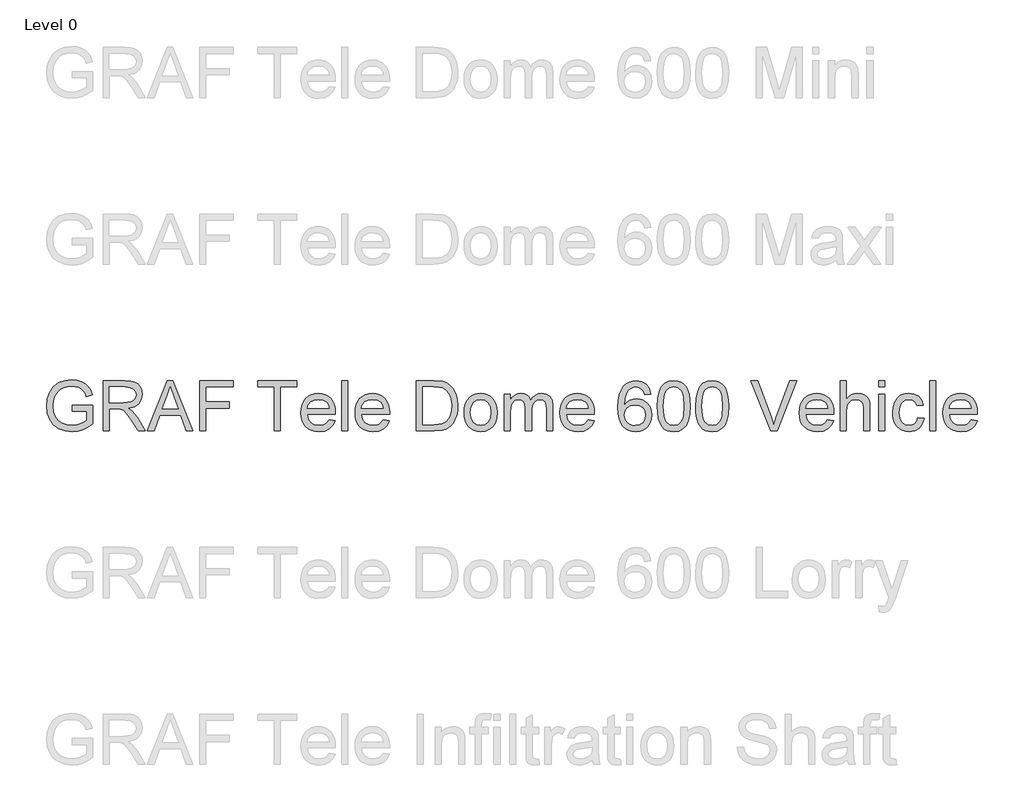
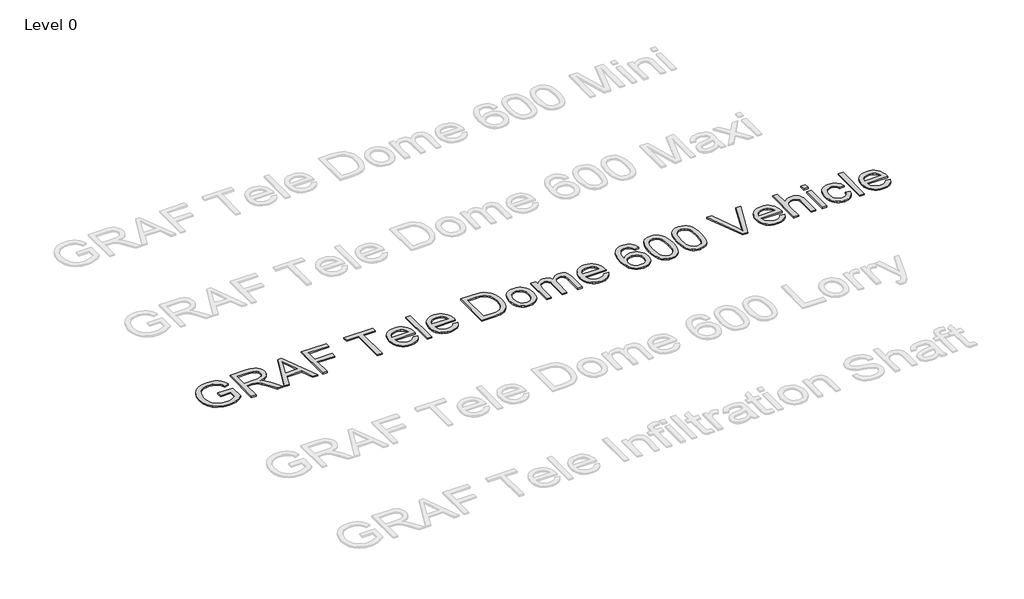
# One storey, part 20 of 25: 1 proxy.
"""IFC4 building model written with IfcOpenShell, lengths in millimetres."""

from ifc_helpers import new_model, si_unit, origin, origin_with_axes, place, context, project, spatial, polyline, outline, extrude, element, save

model = new_model("IFC4")

# Units and contexts
model_context = context("Model", 3, world=origin())
ifc_project = project(units=[si_unit("LENGTHUNIT", "METRE", prefix="MILLI")], contexts=[model_context])

# Site, building, storey
site = spatial("IfcSite", under=ifc_project)
building = spatial("IfcBuilding", under=site)
storey = spatial("IfcBuildingStorey", under=building, Name="Level 0", Elevation=0.0)

# Proxy
placement = place(None, origin())
element("IfcBuildingElementProxy", 1, Name="300mm Arial", ObjectType="300mm Arial", at=placement, inside=storey, context=model_context, shape_type="SweptSolid", body=[
    extrude(outline(polyline([(-15240.9940387, 5916.7454403), (-15240.9940387, 5954.4165566), (-15118.5629107, 5954.4165566), (-15118.5629107, 5841.7710897), (-15148.3153671, 5821.0777274), (-15179.0059225, 5806.2336889), (-15210.5610007, 5797.2941564), (-15242.9070251, 5794.3143123), (-15285.1674693, 5799.050793), (-15323.3628175, 5813.260235), (-15355.0926395, 5836.4459978), (-15377.9565055, 5868.1114405), (-15391.7796715, 5906.0952565), (-15396.3873935, 5948.2361391), (-15391.7980656, 5990.6805243), (-15378.0300819, 6030.1634594), (-15355.6536596, 6063.282036), (-15325.2390156, 6086.6333457), (-15288.1932987, 6100.4841028), (-15245.9236575, 6105.1010218), (-15214.8928112, 6102.4246803), (-15186.9889618, 6094.3956557), (-15163.4904994, 6081.5933623), (-15145.6758138, 6064.5972141), (-15132.4964413, 6042.5886738), (-15122.9039183, 6014.7492038), (-15157.6319786, 6004.9635427), (-15165.3850917, 6024.8199734), (-15174.8120678, 6039.8019677), (-15187.2832674, 6051.0959449), (-15204.169051, 6059.8883246), (-15224.3013932, 6065.5445103), (-15246.5122687, 6067.4299055), (-15272.5123287, 6065.3973575), (-15294.7415982, 6059.2997134), (-15313.1173039, 6049.9003284), (-15327.5566722, 6037.9625577), (-15346.9440533, 6008.9366683), (-15355.7732212, 5980.49939), (-15358.7162772, 5949.7812434), (-15355.175413, 5913.7563991), (-15344.5528204, 5884.1143073), (-15327.1703961, 5861.0665003), (-15303.3500369, 5844.8245102), (-15275.4737787, 5835.195199), (-15245.9236575, 5831.9854286), (-15219.831627, 5834.4042527), (-15194.3833899, 5841.6607251), (-15172.2828791, 5851.6579183), (-15156.234027, 5862.298905), (-15156.234027, 5916.7454403), (-15240.9940387, 5916.7454403)])), origin_with_axes(), (0.0, 0.0, 1.0), 10.0),
    extrude(outline(polyline([(-15057.3473467, 5799.0232018), (-15057.3473467, 6100.3921323), (-14927.4850024, 6100.3921323), (-14892.5821982, 6098.3595842), (-14867.1891434, 6092.2619402), (-14848.6294968, 6081.0047511), (-14834.2269167, 6063.4935682), (-14824.9838815, 6041.7793334), (-14821.9028698, 6017.912989), (-14827.0072325, 5988.2249119), (-14842.3203206, 5963.6136065), (-14853.9200997, 5953.5842236), (-14868.3019865, 5945.5689946), (-14905.4120827, 5935.5809984), (-14884.0013506, 5919.467767), (-14853.467145, 5880.6930048), (-14803.2144645, 5799.0232018), (-14846.9924219, 5799.0232018), (-14886.2086426, 5861.4895646), (-14914.5355562, 5902.8395009), (-14934.4379722, 5922.3740348), (-14952.3538253, 5929.5477337), (-14974.2060158, 5930.8721089), (-15019.6762304, 5930.8721089), (-15019.6762304, 5799.0232018), (-15057.3473467, 5799.0232018)]), holes=[polyline([(-15019.6762304, 5968.5432252), (-14935.3576771, 5968.5432252), (-14911.1418448, 5969.8767974), (-14892.3522719, 5973.8775141), (-14878.2072092, 5980.8120897), (-14867.9249074, 5990.9472387), (-14861.6617165, 6003.2069062), (-14859.5739861, 6016.5150374), (-14863.5563087, 6034.890743), (-14875.5032765, 6049.6979933), (-14896.058683, 6059.4652603), (-14925.8663217, 6062.721016), (-15019.6762304, 6062.721016), (-15019.6762304, 5968.5432252)])]), origin_with_axes(), (0.0, 0.0, 1.0), 10.0),
    extrude(outline(polyline([(-14791.0743586, 5799.0232018), (-14670.7769462, 6100.3921323), (-14638.6976362, 6100.3921323), (-14518.4002238, 5799.0232018), (-14558.2050557, 5799.0232018), (-14592.7123868, 5893.2009926), (-14716.835772, 5893.2009926), (-14751.2695268, 5799.0232018), (-14791.0743586, 5799.0232018)]), holes=[polyline([(-14703.003409, 5930.8721089), (-14606.4711735, 5930.8721089), (-14633.6208647, 6004.9635427), (-14654.7372912, 6062.721016), (-14673.499273, 6011.4382658), (-14703.003409, 5930.8721089)])]), origin_with_axes(), (0.0, 0.0, 1.0), 10.0),
    extrude(outline(polyline([(-14478.1539335, 5799.0232018), (-14478.1539335, 6100.3921323), (-14275.6716834, 6100.3921323), (-14275.6716834, 6062.721016), (-14440.4828172, 6062.721016), (-14440.4828172, 5973.2521147), (-14299.2161311, 5973.2521147), (-14299.2161311, 5935.5809984), (-14440.4828172, 5935.5809984), (-14440.4828172, 5799.0232018), (-14478.1539335, 5799.0232018)])), origin_with_axes(), (0.0, 0.0, 1.0), 10.0),
    extrude(outline(polyline([(-14030.8094274, 5799.0232018), (-14030.8094274, 6062.721016), (-14129.6961077, 6062.721016), (-14129.6961077, 6100.3921323), (-13894.2516308, 6100.3921323), (-13894.2516308, 6062.721016), (-13993.1383111, 6062.721016), (-13993.1383111, 5799.0232018), (-14030.8094274, 5799.0232018)])), origin_with_axes(), (0.0, 0.0, 1.0), 10.0),
    extrude(outline(polyline([(-13701.6286181, 5864.9476554), (-13664.6932658, 5860.2387658), (-13678.001397, 5832.4084929), (-13699.2373851, 5811.6047661), (-13727.9229837, 5798.6369257), (-13763.5799461, 5794.3143123), (-13786.9542484, 5796.1790141), (-13807.7809678, 5801.7731197), (-13826.0601045, 5811.0966291), (-13841.7916583, 5824.1495421), (-13854.4422004, 5840.5685754), (-13863.4783019, 5859.9904455), (-13868.8999628, 5882.4151523), (-13870.7071831, 5907.842696), (-13868.8815687, 5934.1324631), (-13863.4047255, 5957.3044302), (-13854.2766535, 5977.3585975), (-13841.4973527, 5994.2949649), (-13825.8071856, 6007.7502488), (-13807.9465147, 6017.361166), (-13787.9153401, 6023.1277162), (-13765.7136617, 6025.0498997), (-13744.2270539, 6023.1323148), (-13724.7959868, 6017.3795601), (-13707.4204603, 6007.7916356), (-13692.1004744, 5994.3685413), (-13679.5947859, 5977.4689621), (-13670.6621512, 5957.451583), (-13665.3025704, 5934.3164041), (-13663.5160434, 5908.0634252), (-13663.7367726, 5897.9098821), (-13833.0360668, 5897.9098821), (-13826.5153584, 5869.7117272), (-13811.3678173, 5848.9815768), (-13789.5064297, 5836.2344656), (-13762.8441821, 5831.9854286), (-13742.7946134, 5833.9535973), (-13725.9088298, 5839.8581033), (-13712.1868314, 5850.0668287), (-13701.6286181, 5864.9476554)]), holes=[polyline([(-13833.0360668, 5935.5809984), (-13701.1871597, 5935.5809984), (-13706.2823254, 5955.4834144), (-13716.2703215, 5969.7204476), (-13738.2328766, 5982.9641994), (-13765.8608145, 5987.3787834), (-13791.2538692, 5983.8563132), (-13812.2507341, 5973.2889029), (-13826.8464522, 5956.8169866), (-13833.0360668, 5935.5809984)])]), origin_with_axes(), (0.0, 0.0, 1.0), 10.0),
    extrude(outline(polyline([(-13625.8449271, 5799.0232018), (-13625.8449271, 6100.3921323), (-13588.1738108, 6100.3921323), (-13588.1738108, 5799.0232018), (-13625.8449271, 5799.0232018)])), origin_with_axes(), (0.0, 0.0, 1.0), 10.0),
    extrude(outline(polyline([(-13376.71524, 5864.9476554), (-13339.7798877, 5860.2387658), (-13353.0880188, 5832.4084929), (-13374.324007, 5811.6047661), (-13403.0096056, 5798.6369257), (-13438.666568, 5794.3143123), (-13462.0408702, 5796.1790141), (-13482.8675897, 5801.7731197), (-13501.1467263, 5811.0966291), (-13516.8782801, 5824.1495421), (-13529.5288222, 5840.5685754), (-13538.5649238, 5859.9904455), (-13543.9865847, 5882.4151523), (-13545.793805, 5907.842696), (-13543.9681906, 5934.1324631), (-13538.4913474, 5957.3044302), (-13529.3632754, 5977.3585975), (-13516.5839745, 5994.2949649), (-13500.8938074, 6007.7502488), (-13483.0331366, 6017.361166), (-13463.0019619, 6023.1277162), (-13440.8002835, 6025.0498997), (-13419.3136758, 6023.1323148), (-13399.8826086, 6017.3795601), (-13382.5070821, 6007.7916356), (-13367.1870963, 5994.3685413), (-13354.6814077, 5977.4689621), (-13345.748773, 5957.451583), (-13340.3891922, 5934.3164041), (-13338.6026653, 5908.0634252), (-13338.8233945, 5897.9098821), (-13508.1226887, 5897.9098821), (-13501.6019803, 5869.7117272), (-13486.4544391, 5848.9815768), (-13464.5930516, 5836.2344656), (-13437.930804, 5831.9854286), (-13417.8812352, 5833.9535973), (-13400.9954517, 5839.8581033), (-13387.2734532, 5850.0668287), (-13376.71524, 5864.9476554)]), holes=[polyline([(-13508.1226887, 5935.5809984), (-13376.2737816, 5935.5809984), (-13381.3689472, 5955.4834144), (-13391.3569434, 5969.7204476), (-13413.3194985, 5982.9641994), (-13440.9474363, 5987.3787834), (-13466.3404911, 5983.8563132), (-13487.3373559, 5973.2889029), (-13501.9330741, 5956.8169866), (-13508.1226887, 5935.5809984)])]), origin_with_axes(), (0.0, 0.0, 1.0), 10.0),
    extrude(outline(polyline([(-13178.500421, 5799.0232018), (-13178.500421, 6100.3921323), (-13074.5369691, 6100.3921323), (-13020.7526214, 6096.0511247), (-12996.7299272, 6087.6818093), (-12976.4596292, 6074.4932398), (-12955.6191142, 6051.5374033), (-12940.7750757, 6022.9897605), (-12931.8907255, 5989.4021343), (-12928.9292754, 5951.3263478), (-12930.9342323, 5918.9803234), (-12936.9491029, 5890.515454), (-12946.1093646, 5866.2812276), (-12957.5504947, 5846.627132), (-12970.7206701, 5831.1117089), (-12985.0680679, 5819.2934998), (-13001.5399842, 5810.5287112), (-13021.0837152, 5804.1735498), (-13069.533774, 5799.0232018), (-13178.500421, 5799.0232018)]), holes=[polyline([(-13140.8293047, 5836.6943181), (-13074.1690871, 5836.6943181), (-13046.5963316, 5838.0554815), (-13025.6822402, 5842.1389717), (-13009.9001026, 5848.7056653), (-12997.7232085, 5857.5164391), (-12984.6358066, 5873.8228085), (-12974.8041602, 5894.930038), (-12968.6513339, 5920.930098), (-12966.6003918, 5951.914959), (-12970.6195026, 5992.9705897), (-12982.6768349, 6023.2840661), (-13000.4915206, 6044.106187), (-13021.782691, 6056.6877512), (-13043.4509405, 6061.2126998), (-13075.1991567, 6062.721016), (-13140.8293047, 6062.721016), (-13140.8293047, 5836.6943181)])]), origin_with_axes(), (0.0, 0.0, 1.0), 10.0),
    extrude(outline(polyline([(-12891.2581591, 5909.682106), (-12889.2210126, 5938.3447119), (-12883.1095729, 5963.0433894), (-12872.9238402, 5983.7781383), (-12858.6638144, 6000.5489588), (-12844.3072195, 6011.2681204), (-12828.4607026, 6018.9246644), (-12811.1242635, 6023.5185909), (-12792.2979024, 6025.0498997), (-12771.514869, 6023.1851978), (-12752.7229968, 6017.5910922), (-12735.9222859, 6008.2675829), (-12721.1127364, 5995.2146698), (-12709.0255136, 5978.8738115), (-12700.391783, 5959.6864662), (-12695.2115447, 5937.6526339), (-12693.4847985, 5912.7723147), (-12696.5382191, 5874.7149223), (-12705.6984808, 5845.7442152), (-12720.6988691, 5824.0483745), (-12741.2726697, 5807.8155815), (-12765.7092312, 5797.6896296), (-12792.2979024, 5794.3143123), (-12813.3844386, 5796.1721164), (-12832.3510547, 5801.7455286), (-12849.1977508, 5811.034549), (-12863.9245269, 5824.0391775), (-12875.882991, 5840.538685), (-12884.4247511, 5860.3123422), (-12889.5498071, 5883.3601492), (-12891.2581591, 5909.682106)]), holes=[polyline([(-12853.5870428, 5909.7556824), (-12849.2276412, 5875.6622185), (-12836.1494363, 5851.3728097), (-12816.4677495, 5836.8322739), (-12792.2979024, 5831.9854286), (-12768.23842, 5836.859865), (-12748.5935214, 5851.4831743), (-12735.5153165, 5876.0944798), (-12731.1559148, 5910.9329048), (-12735.5429076, 5944.0330873), (-12748.703886, 5967.9914022), (-12768.3763757, 5982.5319381), (-12792.2979024, 5987.3787834), (-12816.4677495, 5982.5503322), (-12836.1494363, 5968.0649786), (-12849.2276412, 5943.8307522), (-12853.5870428, 5909.7556824)])]), origin_with_axes(), (0.0, 0.0, 1.0), 10.0),
    extrude(outline(polyline([(-12651.1047927, 5799.0232018), (-12651.1047927, 6020.3410101), (-12613.4336764, 6020.3410101), (-12613.4336764, 5983.9206926), (-12602.1029109, 6000.6501263), (-12587.5347839, 6013.7559224), (-12570.2259361, 6022.2264053), (-12550.673008, 6025.0498997), (-12529.7221284, 6022.171223), (-12512.9283153, 6013.5351932), (-12500.3835393, 5999.7120272), (-12492.1797708, 5981.2719422), (-12478.4485753, 6000.4247986), (-12462.7859994, 6014.1054103), (-12445.1920429, 6022.3137773), (-12425.666706, 6025.0498997), (-12397.3489895, 6020.49736), (-12376.4073069, 6006.8397409), (-12363.4670577, 5983.7091605), (-12359.1536413, 5950.7377366), (-12359.1536413, 5799.0232018), (-12396.8247576, 5799.0232018), (-12396.8247576, 5934.5509288), (-12400.3196366, 5966.0048394), (-12405.2308612, 5974.6776575), (-12412.9747772, 5981.4926714), (-12422.9351822, 5985.9072554), (-12434.4958739, 5987.3787834), (-12454.9041276, 5983.6079929), (-12471.5415908, 5972.2956216), (-12482.6056419, 5952.6691171), (-12486.2936589, 5923.9559274), (-12486.2936589, 5799.0232018), (-12523.9647752, 5799.0232018), (-12523.9647752, 5938.7447836), (-12526.144476, 5960.0451511), (-12532.6835784, 5975.2386775), (-12544.1890878, 5984.3437569), (-12561.2680095, 5987.3787834), (-12575.7809542, 5985.3554324), (-12589.1534647, 5979.2853795), (-12600.1899246, 5969.3157774), (-12607.6947173, 5955.593779), (-12611.9989366, 5936.5558857), (-12613.4336764, 5910.6385992), (-12613.4336764, 5799.0232018), (-12651.1047927, 5799.0232018)])), origin_with_axes(), (0.0, 0.0, 1.0), 10.0),
    extrude(outline(polyline([(-12147.6950705, 5864.9476554), (-12110.7597182, 5860.2387658), (-12124.0678494, 5832.4084929), (-12145.3038375, 5811.6047661), (-12173.9894361, 5798.6369257), (-12209.6463985, 5794.3143123), (-12233.0207007, 5796.1790141), (-12253.8474202, 5801.7731197), (-12272.1265568, 5811.0966291), (-12287.8581107, 5824.1495421), (-12300.5086528, 5840.5685754), (-12309.5447543, 5859.9904455), (-12314.9664152, 5882.4151523), (-12316.7736355, 5907.842696), (-12314.9480211, 5934.1324631), (-12309.4711779, 5957.3044302), (-12300.3431059, 5977.3585975), (-12287.5638051, 5994.2949649), (-12271.873638, 6007.7502488), (-12254.0129671, 6017.361166), (-12233.9817925, 6023.1277162), (-12211.7801141, 6025.0498997), (-12190.2935063, 6023.1323148), (-12170.8624391, 6017.3795601), (-12153.4869127, 6007.7916356), (-12138.1669268, 5994.3685413), (-12125.6612382, 5977.4689621), (-12116.7286035, 5957.451583), (-12111.3690227, 5934.3164041), (-12109.5824958, 5908.0634252), (-12109.803225, 5897.9098821), (-12279.1025192, 5897.9098821), (-12272.5818108, 5869.7117272), (-12257.4342697, 5848.9815768), (-12235.5728821, 5836.2344656), (-12208.9106345, 5831.9854286), (-12188.8610658, 5833.9535973), (-12171.9752822, 5839.8581033), (-12158.2532838, 5850.0668287), (-12147.6950705, 5864.9476554)]), holes=[polyline([(-12279.1025192, 5935.5809984), (-12147.2536121, 5935.5809984), (-12152.3487777, 5955.4834144), (-12162.3367739, 5969.7204476), (-12184.299329, 5982.9641994), (-12211.9272668, 5987.3787834), (-12237.3203216, 5983.8563132), (-12258.3171864, 5973.2889029), (-12272.9129046, 5956.8169866), (-12279.1025192, 5935.5809984)])]), origin_with_axes(), (0.0, 0.0, 1.0), 10.0),
    extrude(outline(polyline([(-11770.542449, 6020.3410101), (-11808.2135653, 6015.6321206), (-11814.2836183, 6034.3021318), (-11822.4873868, 6047.049243), (-11839.5755054, 6058.8030727), (-11860.2320795, 6062.721016), (-11877.7432624, 6060.4401476), (-11894.2243758, 6053.5975425), (-11908.3786356, 6039.1857653), (-11919.9393273, 6019.3477287), (-11927.7476226, 5991.2875296), (-11930.6446933, 5952.2092646), (-11915.5339404, 5969.8400092), (-11897.4249492, 5982.2652236), (-11877.3293952, 5989.6320606), (-11856.2589539, 5992.0876729), (-11838.1591597, 5990.4092113), (-11821.4573172, 5985.3738265), (-11806.1534262, 5976.9815185), (-11792.2474868, 5965.2322872), (-11780.6913936, 5950.8251086), (-11772.4370413, 5934.4589583), (-11767.48443, 5916.1338365), (-11765.8335595, 5895.849743), (-11768.9421624, 5868.8747957), (-11778.2679709, 5843.868017), (-11793.038433, 5822.65962), (-11812.4809965, 5807.0798175), (-11835.7127445, 5797.5056886), (-11861.8507602, 5794.3143123), (-11884.3076568, 5796.4296338), (-11904.589451, 5802.7755982), (-11922.696143, 5813.3522055), (-11938.6277326, 5828.1594558), (-11951.6162663, 5847.8227485), (-11960.8937904, 5872.9674829), (-11966.4603048, 5903.593659), (-11968.3158096, 5939.7012768), (-11966.2556705, 5980.1820918), (-11960.075253, 6014.7308097), (-11949.7745571, 6043.3474304), (-11935.3535829, 6066.0319539), (-11919.7231966, 6081.0645319), (-11901.6004098, 6091.8020877), (-11880.9852225, 6098.2446211), (-11857.8776347, 6100.3921323), (-11824.8234374, 6095.0762374), (-11798.3543279, 6079.1285529), (-11779.8130753, 6053.7998776), (-11770.542449, 6020.3410101)]), holes=[polyline([(-11930.6446933, 5896.4383541), (-11928.4649925, 5879.7457086), (-11921.9258901, 5863.8072212), (-11911.772347, 5850.1036169), (-11898.7493244, 5840.1156207), (-11883.0315661, 5834.0179766), (-11864.7938162, 5831.9854286), (-11839.9341904, 5836.1976774), (-11820.3904594, 5848.834424), (-11807.7261217, 5868.7000517), (-11803.5046758, 5894.5989442), (-11807.6709394, 5919.45857), (-11820.1697302, 5938.4136898), (-11840.044555, 5950.4158399), (-11866.3389206, 5954.4165566), (-11891.1617582, 5950.4158399), (-11911.9194998, 5938.4136898), (-11925.9633949, 5919.9184225), (-11930.6446933, 5896.4383541)])]), origin_with_axes(), (0.0, 0.0, 1.0), 10.0),
    extrude(outline(polyline([(-11732.8713327, 5947.2796459), (-11730.1030207, 5995.5181725), (-11721.7980847, 6033.9894321), (-11708.0392981, 6063.282036), (-11688.9094343, 6083.9845953), (-11664.2705377, 6096.290248), (-11633.9846524, 6100.3921323), (-11610.7712985, 6097.9641111), (-11589.9859658, 6090.6800476), (-11572.6035415, 6078.8250503), (-11559.598913, 6062.6842278), (-11549.7764637, 6042.3955357), (-11541.9405772, 6018.0969299), (-11536.8086234, 5987.2408276), (-11535.0979721, 5947.2796459), (-11537.838693, 5899.3170308), (-11546.0608556, 5860.9377416), (-11559.7368687, 5831.6175466), (-11578.8391413, 5810.8322139), (-11603.5332203, 5798.4437877), (-11633.9846524, 5794.3143123), (-11654.733197, 5796.107737), (-11673.1272967, 5801.4880112), (-11689.1669517, 5810.4551348), (-11702.8521619, 5823.0091079), (-11715.9855492, 5845.7028285), (-11725.36654, 5873.9791583), (-11730.9951346, 5907.8380975), (-11732.8713327, 5947.2796459)]), holes=[polyline([(-11695.2002164, 5947.3532223), (-11690.7856325, 5888.0966299), (-11685.2674026, 5867.8286312), (-11677.5418807, 5853.8008309), (-11657.8234057, 5837.4392792), (-11633.9846524, 5831.9854286), (-11610.1458991, 5837.4576733), (-11590.4274242, 5853.8744073), (-11582.7019023, 5867.9252003), (-11577.1836724, 5888.1886004), (-11572.7690884, 5947.3532223), (-11577.0365196, 6005.2762424), (-11582.3708085, 6025.4775625), (-11589.838813, 6039.8387559), (-11609.5204997, 6057.0004509), (-11634.4261108, 6062.721016), (-11658.0073467, 6057.6810326), (-11676.9532695, 6042.5610826), (-11684.9363088, 6026.9260978), (-11690.6384797, 6005.8464595), (-11695.2002164, 5947.3532223)])]), origin_with_axes(), (0.0, 0.0, 1.0), 10.0),
    extrude(outline(polyline([(-11502.1357454, 5947.2796459), (-11499.3674333, 5995.5181725), (-11491.0624973, 6033.9894321), (-11477.3037107, 6063.282036), (-11458.1738469, 6083.9845953), (-11433.5349503, 6096.290248), (-11403.2490651, 6100.3921323), (-11380.0357112, 6097.9641111), (-11359.2503784, 6090.6800476), (-11341.8679542, 6078.8250503), (-11328.8633256, 6062.6842278), (-11319.0408764, 6042.3955357), (-11311.2049899, 6018.0969299), (-11306.073036, 5987.2408276), (-11304.3623847, 5947.2796459), (-11307.1031056, 5899.3170308), (-11315.3252682, 5860.9377416), (-11329.0012814, 5831.6175466), (-11348.103554, 5810.8322139), (-11372.7976329, 5798.4437877), (-11403.2490651, 5794.3143123), (-11423.9976096, 5796.107737), (-11442.3917093, 5801.4880112), (-11458.4313643, 5810.4551348), (-11472.1165745, 5823.0091079), (-11485.2499618, 5845.7028285), (-11494.6309527, 5873.9791583), (-11500.2595472, 5907.8380975), (-11502.1357454, 5947.2796459)]), holes=[polyline([(-11464.464629, 5947.3532223), (-11460.0500451, 5888.0966299), (-11454.5318152, 5867.8286312), (-11446.8062933, 5853.8008309), (-11427.0878183, 5837.4392792), (-11403.2490651, 5831.9854286), (-11379.4103118, 5837.4576733), (-11359.6918368, 5853.8744073), (-11351.9663149, 5867.9252003), (-11346.448085, 5888.1886004), (-11342.0335011, 5947.3532223), (-11346.3009322, 6005.2762424), (-11351.6352211, 6025.4775625), (-11359.1032256, 6039.8387559), (-11378.7849124, 6057.0004509), (-11403.6905234, 6062.721016), (-11427.2717593, 6057.6810326), (-11446.2176821, 6042.5610826), (-11454.2007214, 6026.9260978), (-11459.9028923, 6005.8464595), (-11464.464629, 5947.3532223)])]), origin_with_axes(), (0.0, 0.0, 1.0), 10.0),
    extrude(outline(polyline([(-11050.5238081, 5799.0232018), (-11170.4533385, 6100.3921323), (-11130.1334718, 6100.3921323), (-11049.8616205, 5883.2681787), (-11033.6012363, 5834.3398734), (-11017.5615813, 5883.2681787), (-10937.0690008, 6100.3921323), (-10896.7491341, 6100.3921323), (-11011.601893, 5799.0232018), (-11050.5238081, 5799.0232018)])), origin_with_axes(), (0.0, 0.0, 1.0), 10.0),
    extrude(outline(polyline([(-10711.4837613, 5864.9476554), (-10674.548409, 5860.2387658), (-10687.8565402, 5832.4084929), (-10709.0925284, 5811.6047661), (-10737.7781269, 5798.6369257), (-10773.4350893, 5794.3143123), (-10796.8093916, 5796.1790141), (-10817.636111, 5801.7731197), (-10835.9152477, 5811.0966291), (-10851.6468015, 5824.1495421), (-10864.2973436, 5840.5685754), (-10873.3334451, 5859.9904455), (-10878.755106, 5882.4151523), (-10880.5623263, 5907.842696), (-10878.7367119, 5934.1324631), (-10873.2598687, 5957.3044302), (-10864.1317967, 5977.3585975), (-10851.3524959, 5994.2949649), (-10835.6623288, 6007.7502488), (-10817.8016579, 6017.361166), (-10797.7704833, 6023.1277162), (-10775.5688049, 6025.0498997), (-10754.0821971, 6023.1323148), (-10734.65113, 6017.3795601), (-10717.2756035, 6007.7916356), (-10701.9556176, 5994.3685413), (-10689.4499291, 5977.4689621), (-10680.5172944, 5957.451583), (-10675.1577136, 5934.3164041), (-10673.3711866, 5908.0634252), (-10673.5919158, 5897.9098821), (-10842.89121, 5897.9098821), (-10836.3705016, 5869.7117272), (-10821.2229605, 5848.9815768), (-10799.3615729, 5836.2344656), (-10772.6993253, 5831.9854286), (-10752.6497566, 5833.9535973), (-10735.763973, 5839.8581033), (-10722.0419746, 5850.0668287), (-10711.4837613, 5864.9476554)]), holes=[polyline([(-10842.89121, 5935.5809984), (-10711.0423029, 5935.5809984), (-10716.1374686, 5955.4834144), (-10726.1254647, 5969.7204476), (-10748.0880198, 5982.9641994), (-10775.7159577, 5987.3787834), (-10801.1090124, 5983.8563132), (-10822.1058773, 5973.2889029), (-10836.7015954, 5956.8169866), (-10842.89121, 5935.5809984)])]), origin_with_axes(), (0.0, 0.0, 1.0), 10.0),
    extrude(outline(polyline([(-10635.7000703, 5799.0232018), (-10635.7000703, 6100.3921323), (-10598.028954, 6100.3921323), (-10598.028954, 5989.5860753), (-10584.1919925, 6005.1014985), (-10568.6535767, 6016.1839436), (-10551.4137067, 6022.8334106), (-10532.4723825, 6025.0498997), (-10509.7188811, 6022.6310755), (-10490.165953, 6015.3746032), (-10474.7700915, 6003.8506997), (-10464.4877898, 5988.6295821), (-10458.6936483, 5967.7154907), (-10456.7622679, 5939.1126656), (-10456.7622679, 5799.0232018), (-10494.4333842, 5799.0232018), (-10494.4333842, 5935.2131164), (-10497.4316224, 5958.7943523), (-10506.4263372, 5974.9443719), (-10520.9208878, 5984.2701805), (-10540.4186336, 5987.3787834), (-10556.3387269, 5985.281856), (-10571.283933, 5978.9910739), (-10583.6631621, 5969.1134423), (-10591.8853247, 5956.2559666), (-10596.4930467, 5939.1678479), (-10598.028954, 5916.5982875), (-10598.028954, 5799.0232018), (-10635.7000703, 5799.0232018)])), origin_with_axes(), (0.0, 0.0, 1.0), 10.0),
    extrude(outline(polyline([(-10404.9644829, 6062.721016), (-10404.9644829, 6100.3921323), (-10367.2933666, 6100.3921323), (-10367.2933666, 6062.721016), (-10404.9644829, 6062.721016)])), origin_with_axes(), (0.0, 0.0, 1.0), 10.0),
    extrude(outline(polyline([(-10404.9644829, 5799.0232018), (-10404.9644829, 6020.3410101), (-10367.2933666, 6020.3410101), (-10367.2933666, 5799.0232018), (-10404.9644829, 5799.0232018)])), origin_with_axes(), (0.0, 0.0, 1.0), 10.0),
    extrude(outline(polyline([(-10169.520006, 5879.074324), (-10131.8488897, 5874.3654344), (-10142.3519207, 5840.8605817), (-10162.0887897, 5815.5411034), (-10189.2016928, 5799.6210101), (-10221.8328257, 5794.3143123), (-10242.9607486, 5796.1652186), (-10261.9043721, 5801.7179374), (-10278.6636962, 5810.9724689), (-10293.238721, 5823.9288129), (-10305.0362367, 5840.3432477), (-10313.4630337, 5859.9720514), (-10318.5191119, 5882.815224), (-10320.2044713, 5908.8727656), (-10317.3257946, 5942.3960124), (-10308.6897648, 5971.449493), (-10294.158426, 5994.9111672), (-10273.5938225, 6011.658995), (-10248.991714, 6021.7021735), (-10222.3478605, 6025.0498997), (-10190.5168709, 6020.4513747), (-10165.0686339, 6006.6557999), (-10146.8124899, 5984.3989392), (-10136.5577793, 5954.4165566), (-10174.2288956, 5949.707667), (-10181.0623036, 5966.1427952), (-10191.7032903, 5977.9242161), (-10205.5632445, 5985.0151415), (-10222.0535549, 5987.3787834), (-10246.398146, 5982.7250761), (-10265.7211478, 5968.7639544), (-10278.3303032, 5944.7412601), (-10282.5333549, 5909.9028352), (-10278.4222736, 5874.5953607), (-10266.0890298, 5850.4898929), (-10247.1155159, 5836.6115447), (-10223.0836245, 5831.9854286), (-10203.5766817, 5834.8733023), (-10187.583012, 5843.5369232), (-10175.9487439, 5858.1970207), (-10169.520006, 5879.074324)])), origin_with_axes(), (0.0, 0.0, 1.0), 10.0),
    extrude(outline(polyline([(-10098.886663, 5799.0232018), (-10098.886663, 6100.3921323), (-10061.2155466, 6100.3921323), (-10061.2155466, 5799.0232018), (-10098.886663, 5799.0232018)])), origin_with_axes(), (0.0, 0.0, 1.0), 10.0),
    extrude(outline(polyline([(-9849.7569758, 5864.9476554), (-9812.8216235, 5860.2387658), (-9826.1297547, 5832.4084929), (-9847.3657429, 5811.6047661), (-9876.0513414, 5798.6369257), (-9911.7083038, 5794.3143123), (-9935.0826061, 5796.1790141), (-9955.9093255, 5801.7731197), (-9974.1884622, 5811.0966291), (-9989.920016, 5824.1495421), (-10002.5705581, 5840.5685754), (-10011.6066596, 5859.9904455), (-10017.0283205, 5882.4151523), (-10018.8355408, 5907.842696), (-10017.0099264, 5934.1324631), (-10011.5330832, 5957.3044302), (-10002.4050112, 5977.3585975), (-9989.6257104, 5994.2949649), (-9973.9355433, 6007.7502488), (-9956.0748724, 6017.361166), (-9936.0436978, 6023.1277162), (-9913.8420194, 6025.0498997), (-9892.3554116, 6023.1323148), (-9872.9243445, 6017.3795601), (-9855.548818, 6007.7916356), (-9840.2288321, 5994.3685413), (-9827.7231436, 5977.4689621), (-9818.7905089, 5957.451583), (-9813.4309281, 5934.3164041), (-9811.6444011, 5908.0634252), (-9811.8651303, 5897.9098821), (-9981.1644245, 5897.9098821), (-9974.6437161, 5869.7117272), (-9959.496175, 5848.9815768), (-9937.6347874, 5836.2344656), (-9910.9725398, 5831.9854286), (-9890.9229711, 5833.9535973), (-9874.0371875, 5839.8581033), (-9860.3151891, 5850.0668287), (-9849.7569758, 5864.9476554)]), holes=[polyline([(-9981.1644245, 5935.5809984), (-9849.3155174, 5935.5809984), (-9854.4106831, 5955.4834144), (-9864.3986792, 5969.7204476), (-9886.3612343, 5982.9641994), (-9913.9891722, 5987.3787834), (-9939.3822269, 5983.8563132), (-9960.3790918, 5973.2889029), (-9974.9748099, 5956.8169866), (-9981.1644245, 5935.5809984)])]), origin_with_axes(), (0.0, 0.0, 1.0), 10.0),
])

save(model, "model.ifc")
